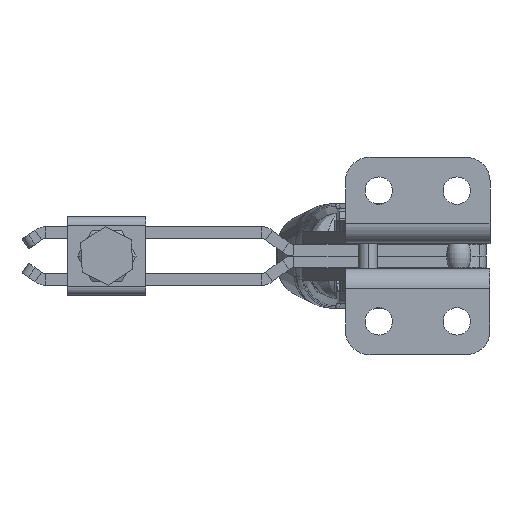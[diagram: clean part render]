
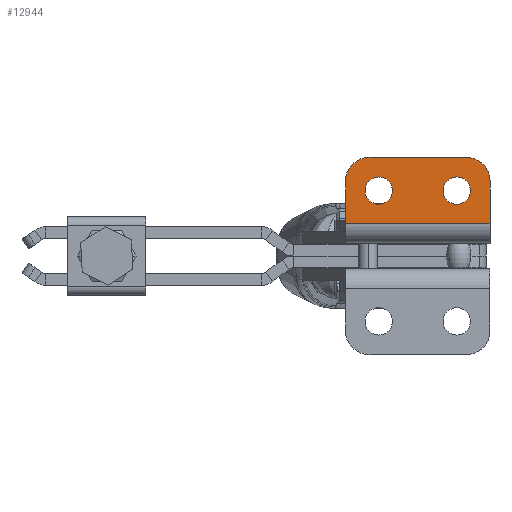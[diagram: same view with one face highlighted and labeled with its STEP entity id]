
A CAD part, front view. The second image highlights one B-rep face of the part: STEP entity #12944.
In plain terms, the highlighted planar face has unit normal (0, -1, 0).
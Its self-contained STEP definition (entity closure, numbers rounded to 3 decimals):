
#76 = AXIS2_PLACEMENT_3D ( 'NONE', #4675, #18383, #6631 ) ;
#110 = EDGE_CURVE ( 'NONE', #13948, #14119, #8022, .T. ) ;
#1332 = FACE_BOUND ( 'NONE', #5453, .T. ) ;
#1374 = EDGE_LOOP ( 'NONE', ( #22104, #22627 ) ) ;
#1823 = DIRECTION ( 'NONE',  ( 0., 0., 1. ) ) ;
#1894 = ORIENTED_EDGE ( 'NONE', *, *, #110, .F. ) ;
#2490 = EDGE_CURVE ( 'NONE', #14119, #10031, #19554, .T. ) ;
#2594 = DIRECTION ( 'NONE',  ( -1., 0., 0. ) ) ;
#2631 = EDGE_CURVE ( 'NONE', #18633, #13948, #6658, .T. ) ;
#3140 = DIRECTION ( 'NONE',  ( 0., 1., 0. ) ) ;
#3328 = CARTESIAN_POINT ( 'NONE',  ( 8.5, -1.975, -51.683 ) ) ;
#3698 = DIRECTION ( 'NONE',  ( 0., 1., 0. ) ) ;
#3990 = CARTESIAN_POINT ( 'NONE',  ( -21.9, -1.975, 6.07 ) ) ;
#4034 = VECTOR ( 'NONE', #15106, 1000. ) ;
#4225 = LINE ( 'NONE', #19141, #14069 ) ;
#4491 = CARTESIAN_POINT ( 'NONE',  ( -28.5, -1.975, -10.9 ) ) ;
#4675 = CARTESIAN_POINT ( 'NONE',  ( -20., -1.975, -2.43 ) ) ;
#4730 = CARTESIAN_POINT ( 'NONE',  ( 0., -1.975, -2.43 ) ) ;
#4983 = AXIS2_PLACEMENT_3D ( 'NONE', #14916, #3140, #16872 ) ;
#5362 = ORIENTED_EDGE ( 'NONE', *, *, #9003, .F. ) ;
#5453 = EDGE_LOOP ( 'NONE', ( #17128, #19075 ) ) ;
#6631 = DIRECTION ( 'NONE',  ( 0., 0., 1. ) ) ;
#6658 = CIRCLE ( 'NONE', #9736, 6. ) ;
#6693 = DIRECTION ( 'NONE',  ( 0., 0., 1. ) ) ;
#7470 = AXIS2_PLACEMENT_3D ( 'NONE', #21689, #9963, #23673 ) ;
#7817 = EDGE_CURVE ( 'NONE', #8393, #23636, #20336, .T. ) ;
#8022 = LINE ( 'NONE', #3328, #4034 ) ;
#8393 = VERTEX_POINT ( 'NONE', #15307 ) ;
#8429 = CARTESIAN_POINT ( 'NONE',  ( -21.9, -1.975, -10.9 ) ) ;
#9003 = EDGE_CURVE ( 'NONE', #13955, #11249, #19379, .T. ) ;
#9133 = VECTOR ( 'NONE', #2594, 1000. ) ;
#9292 = AXIS2_PLACEMENT_3D ( 'NONE', #4730, #18447, #6693 ) ;
#9371 = DIRECTION ( 'NONE',  ( 0., 0., 1. ) ) ;
#9736 = AXIS2_PLACEMENT_3D ( 'NONE', #15488, #3698, #17420 ) ;
#9847 = EDGE_CURVE ( 'NONE', #11249, #18633, #16908, .T. ) ;
#9911 = CARTESIAN_POINT ( 'NONE',  ( -28.5, -1.975, 0.07 ) ) ;
#9963 = DIRECTION ( 'NONE',  ( 0., 1., 0. ) ) ;
#10031 = VERTEX_POINT ( 'NONE', #4491 ) ;
#11249 = VERTEX_POINT ( 'NONE', #24880 ) ;
#11277 = ORIENTED_EDGE ( 'NONE', *, *, #9847, .F. ) ;
#11642 = CARTESIAN_POINT ( 'NONE',  ( 0., -1.975, -2.43 ) ) ;
#12581 = CIRCLE ( 'NONE', #76, 3.5 ) ;
#12652 = EDGE_CURVE ( 'NONE', #20605, #14515, #12698, .T. ) ;
#12698 = CIRCLE ( 'NONE', #9292, 3.5 ) ;
#12717 = CARTESIAN_POINT ( 'NONE',  ( 0., -1.975, 1.07 ) ) ;
#12944 = ADVANCED_FACE ( 'NONE', ( #21546, #16975, #1332 ), #23308, .F. ) ;
#13600 = DIRECTION ( 'NONE',  ( 0., 1., 0. ) ) ;
#13641 = DIRECTION ( 'NONE',  ( 0., 0., 1. ) ) ;
#13861 = EDGE_CURVE ( 'NONE', #14515, #20605, #24014, .T. ) ;
#13948 = VERTEX_POINT ( 'NONE', #15783 ) ;
#13955 = VERTEX_POINT ( 'NONE', #9911 ) ;
#14059 = AXIS2_PLACEMENT_3D ( 'NONE', #15486, #13600, #1823 ) ;
#14069 = VECTOR ( 'NONE', #9371, 1000. ) ;
#14119 = VERTEX_POINT ( 'NONE', #19056 ) ;
#14515 = VERTEX_POINT ( 'NONE', #12717 ) ;
#14916 = CARTESIAN_POINT ( 'NONE',  ( -20., -1.975, -2.43 ) ) ;
#15106 = DIRECTION ( 'NONE',  ( 0., 0., -1. ) ) ;
#15307 = CARTESIAN_POINT ( 'NONE',  ( -20., -1.975, -5.93 ) ) ;
#15486 = CARTESIAN_POINT ( 'NONE',  ( -21.9, -1.975, -51.683 ) ) ;
#15488 = CARTESIAN_POINT ( 'NONE',  ( 2.5, -1.975, 0.07 ) ) ;
#15656 = CARTESIAN_POINT ( 'NONE',  ( -20., -1.975, 1.07 ) ) ;
#15783 = CARTESIAN_POINT ( 'NONE',  ( 8.5, -1.975, 0.07 ) ) ;
#16872 = DIRECTION ( 'NONE',  ( 0., 0., 1. ) ) ;
#16908 = LINE ( 'NONE', #3990, #22092 ) ;
#16975 = FACE_BOUND ( 'NONE', #1374, .T. ) ;
#17079 = CARTESIAN_POINT ( 'NONE',  ( 0., -1.975, -5.93 ) ) ;
#17128 = ORIENTED_EDGE ( 'NONE', *, *, #25029, .T. ) ;
#17402 = CARTESIAN_POINT ( 'NONE',  ( 2.5, -1.975, 6.07 ) ) ;
#17420 = DIRECTION ( 'NONE',  ( 0., 0., 1. ) ) ;
#17704 = DIRECTION ( 'NONE',  ( 1., 0., 0. ) ) ;
#17767 = EDGE_CURVE ( 'NONE', #10031, #13955, #4225, .T. ) ;
#18383 = DIRECTION ( 'NONE',  ( 0., 1., 0. ) ) ;
#18447 = DIRECTION ( 'NONE',  ( 0., 1., 0. ) ) ;
#18455 = EDGE_LOOP ( 'NONE', ( #18717, #1894, #22679, #11277, #5362, #24685 ) ) ;
#18633 = VERTEX_POINT ( 'NONE', #17402 ) ;
#18717 = ORIENTED_EDGE ( 'NONE', *, *, #2490, .F. ) ;
#19056 = CARTESIAN_POINT ( 'NONE',  ( 8.5, -1.975, -10.9 ) ) ;
#19075 = ORIENTED_EDGE ( 'NONE', *, *, #7817, .T. ) ;
#19141 = CARTESIAN_POINT ( 'NONE',  ( -28.5, -1.975, -51.683 ) ) ;
#19379 = CIRCLE ( 'NONE', #7470, 6. ) ;
#19554 = LINE ( 'NONE', #8429, #9133 ) ;
#20336 = CIRCLE ( 'NONE', #4983, 3.5 ) ;
#20605 = VERTEX_POINT ( 'NONE', #17079 ) ;
#21546 = FACE_OUTER_BOUND ( 'NONE', #18455, .T. ) ;
#21689 = CARTESIAN_POINT ( 'NONE',  ( -22.5, -1.975, 0.07 ) ) ;
#22092 = VECTOR ( 'NONE', #17704, 1000. ) ;
#22104 = ORIENTED_EDGE ( 'NONE', *, *, #13861, .T. ) ;
#22627 = ORIENTED_EDGE ( 'NONE', *, *, #12652, .T. ) ;
#22679 = ORIENTED_EDGE ( 'NONE', *, *, #2631, .F. ) ;
#23083 = AXIS2_PLACEMENT_3D ( 'NONE', #11642, #25358, #13641 ) ;
#23308 = PLANE ( 'NONE',  #14059 ) ;
#23636 = VERTEX_POINT ( 'NONE', #15656 ) ;
#23673 = DIRECTION ( 'NONE',  ( 0., 0., 1. ) ) ;
#24014 = CIRCLE ( 'NONE', #23083, 3.5 ) ;
#24685 = ORIENTED_EDGE ( 'NONE', *, *, #17767, .F. ) ;
#24880 = CARTESIAN_POINT ( 'NONE',  ( -22.5, -1.975, 6.07 ) ) ;
#25029 = EDGE_CURVE ( 'NONE', #23636, #8393, #12581, .T. ) ;
#25358 = DIRECTION ( 'NONE',  ( 0., 1., 0. ) ) ;
